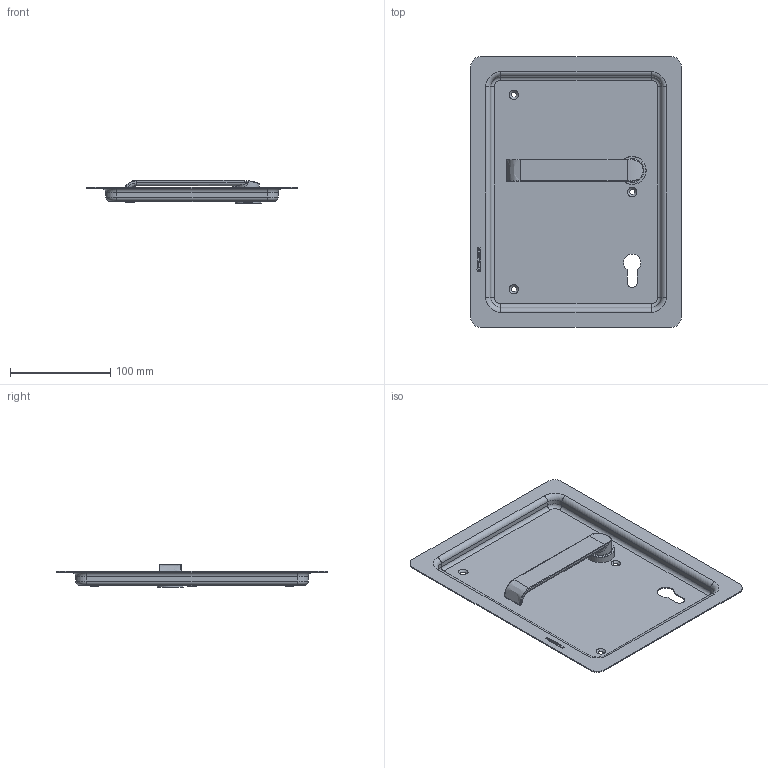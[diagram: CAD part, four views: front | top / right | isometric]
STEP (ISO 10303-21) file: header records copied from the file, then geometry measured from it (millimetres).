
FILE_DESCRIPTION(/* description */ (''),/* implementation_level */ '2;1');
FILE_NAME(/* name */ 'C:\ADSK_DMS_WS\Designs\Vorschläge\Loc Schalen\Muschel Serie 6\S6.13.D1Links\Heusser-Muschel S6.13.D1.392L.stp',/* time_stamp */ '2020-10-15T14:29:43+02:00',/* author */ ('gm'),/* organization */ (''),/* preprocessor_version */ 'ST-DEVELOPER v16.5',/* originating_system */ 'Autodesk Inventor 2017',/* authorisation */ '');
FILE_SCHEMA (('AUTOMOTIVE_DESIGN { 1 0 10303 214 3 1 1 }'));
Length unit declared in the file: millimetre
Products named in the file (1): S6.13.D1.0L
Bounding box: 210 x 270 x 23 mm (x, y, z)
Volume: 84862.7 mm3; surface area: 138430.6 mm2
Topology: 1 solids, 2 shells, 306 faces, 769 edges, 488 vertices
Faces by surface type: plane 132, bspline 78, cylinder 61, torus 19, cone 16
Full cylindrical faces by diameter (mm): 1.7 x2, 6 x1, 14.2 x1, 16 x3, 18 x1, 19 x1, 19.1 x1, 22 x1, 23 x1, 23.2 x1, 24 x1, 25 x1, 26 x1, 28 x1
Entity records: 10220 total; most frequent: CARTESIAN_POINT 2993, ORIENTED_EDGE 1448, DIRECTION 1278, EDGE_CURVE 724, VERTEX_POINT 480, AXIS2_PLACEMENT_3D 439, LINE 400, VECTOR 400
